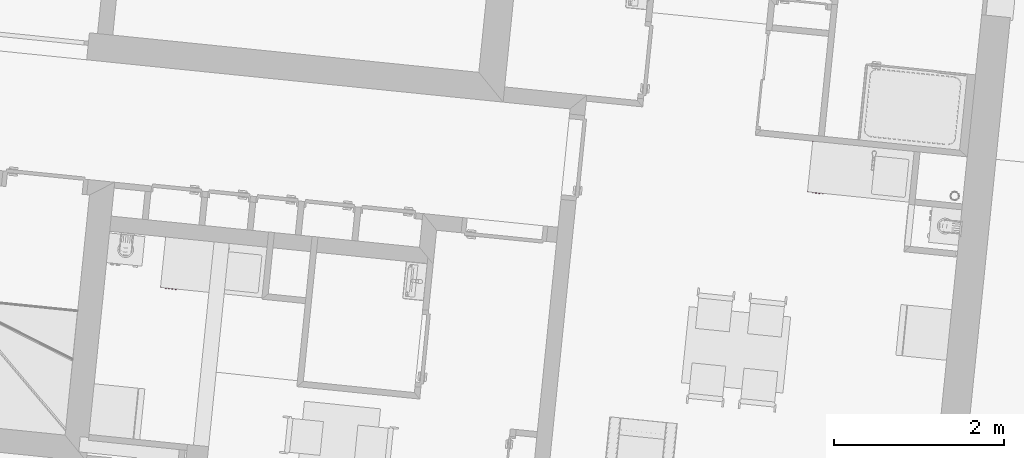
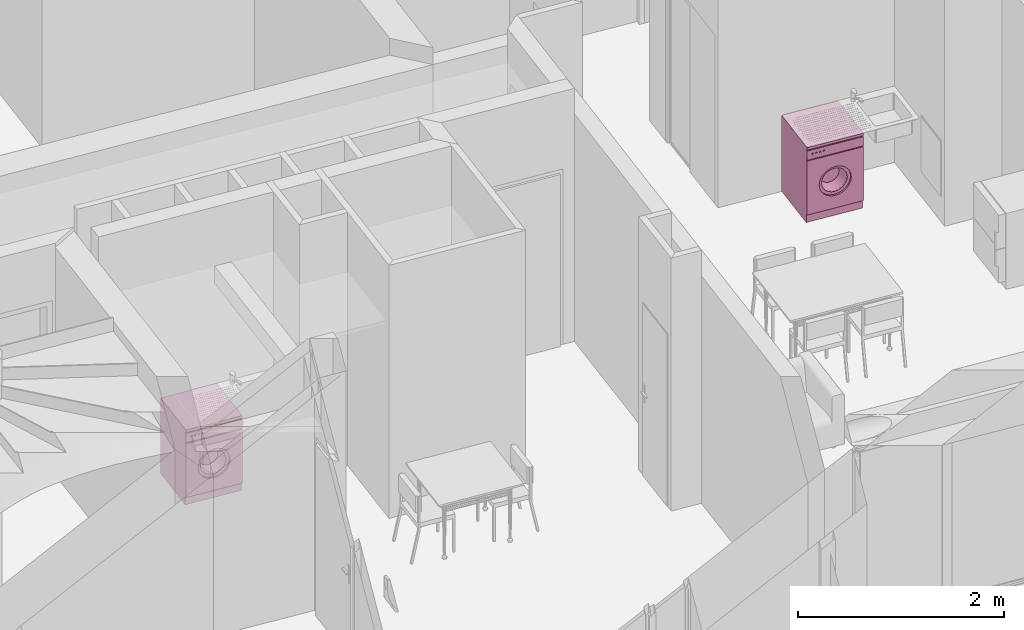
# One storey, part 142 of 171: 2 furnishings.
"""IFC2X3 building model written with IfcOpenShell, lengths in millimetres."""

from ifc_helpers import new_model, entity, si_unit, converted_unit, derived_unit, money_unit, direction, frame, origin_with_axes, place, context, subcontext, project, spatial, open_shell, faceted_brep, surface_model, source, transform, mapped, type_object, element, save


model = new_model("IFC2X3")

# Units and contexts
model_context = context("Model", 3, precision=0.01, world=origin_with_axes(), true_north=direction((0.0, 1.0)))
body_context = subcontext(model_context, "Body", "Model", "MODEL_VIEW")
ifc_project = project(units=[si_unit("LENGTHUNIT", "METRE", prefix="MILLI"), si_unit("AREAUNIT", "SQUARE_METRE"), si_unit("VOLUMEUNIT", "CUBIC_METRE"), converted_unit("PLANEANGLEUNIT", "DEGREE", entity("IfcPlaneAngleMeasure", 0.0174532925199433), si_unit("PLANEANGLEUNIT", "RADIAN"), dimensions=[0, 0, 0, 0, 0, 0, 0]), money_unit("USD"), converted_unit("TIMEUNIT", "Year", entity("IfcTimeMeasure", 31557600.0), si_unit("TIMEUNIT", "SECOND"), dimensions=[0, 0, 1, 0, 0, 0, 0]), si_unit("MASSUNIT", "GRAM", prefix="KILO"), si_unit("THERMODYNAMICTEMPERATUREUNIT", "DEGREE_CELSIUS"), si_unit("LUMINOUSINTENSITYUNIT", "LUMEN"), si_unit("ENERGYUNIT", "JOULE", prefix="MEGA"), derived_unit("THERMALCONDUCTANCEUNIT", [(si_unit("POWERUNIT", "WATT"), 1), (si_unit("LENGTHUNIT", "METRE"), -1), (si_unit("THERMODYNAMICTEMPERATUREUNIT", "KELVIN"), -1)]), derived_unit("SPECIFICHEATCAPACITYUNIT", [(si_unit("ENERGYUNIT", "JOULE"), 1), (si_unit("MASSUNIT", "GRAM", prefix="KILO"), -1), (si_unit("THERMODYNAMICTEMPERATUREUNIT", "KELVIN"), -1)]), derived_unit("MASSDENSITYUNIT", [(si_unit("MASSUNIT", "GRAM", prefix="KILO"), 1), (si_unit("VOLUMEUNIT", "CUBIC_METRE"), -1)])], contexts=[model_context])

# Site, building, storey
site_placement = place(None, origin_with_axes())
site = spatial("IfcSite", under=ifc_project, at=site_placement, Name="Site", CompositionType="ELEMENT")
building_placement = place(site_placement, origin_with_axes())
building = spatial("IfcBuilding", under=site, at=building_placement, Name="Bâtiment", CompositionType="ELEMENT")
storey_placement = place(building_placement, frame((0.0, 0.0, 3000.0), z_axis=(0.0, 0.0, 1.0), x_axis=(1.0, 0.0, 0.0)))
storey = spatial("IfcBuildingStorey", under=building, at=storey_placement, Name="rdc", CompositionType="ELEMENT", Elevation=3000.0)

# Furnishings
furnishing_element_type = type_object("IfcFurnishingElementType", Name="Machine à laver")
shared_shape = source(origin_with_axes(), body_context, "Body", "SurfaceModel", [
    faceted_brep([(0.0, 20.0, 100.0), (600.0, 20.0, 100.0), (600.0, 0.0, 100.0), (0.0, 0.0, 100.0), (0.0, 20.00000000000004, 740.0), (600.0, 20.00000000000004, 740.0), (471.4285714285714, 20.00000000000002, 420.0000000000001), (465.5872845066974, 20.00000000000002, 464.3689791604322), (448.4614977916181, 20.00000000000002, 505.7142857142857), (421.2183053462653, 20.00000000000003, 541.2183053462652), (385.7142857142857, 20.00000000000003, 568.4614977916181), (344.3689791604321, 20.00000000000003, 585.5872845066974), (300.0000000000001, 20.00000000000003, 591.4285714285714), (255.6310208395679, 20.00000000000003, 585.5872845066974), (214.2857142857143, 20.00000000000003, 568.4614977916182), (178.7816946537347, 20.00000000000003, 541.2183053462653), (151.5385022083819, 20.00000000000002, 505.7142857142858), (134.4127154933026, 20.00000000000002, 464.3689791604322), (128.5714285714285, 20.00000000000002, 420.0000000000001), (134.4127154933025, 20.00000000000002, 375.6310208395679), (151.5385022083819, 20.00000000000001, 334.2857142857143), (178.7816946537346, 20.00000000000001, 298.7816946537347), (214.2857142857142, 20.00000000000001, 271.5385022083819), (255.6310208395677, 20.00000000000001, 254.4127154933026), (299.9999999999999, 20.00000000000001, 248.5714285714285), (344.368979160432, 20.00000000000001, 254.4127154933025), (385.7142857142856, 20.00000000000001, 271.5385022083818), (421.2183053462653, 20.00000000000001, 298.7816946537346), (448.4614977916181, 20.00000000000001, 334.2857142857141), (465.5872845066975, 20.00000000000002, 375.6310208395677), (600.0, 0.0, 740.0), (0.0, 0.0, 740.0), (471.4285714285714, 0.0, 420.0000000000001), (465.5872845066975, 0.0, 375.6310208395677), (448.4614977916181, 0.0, 334.2857142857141), (421.2183053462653, 0.0, 298.7816946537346), (385.7142857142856, 0.0, 271.5385022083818), (344.368979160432, 0.0, 254.4127154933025), (299.9999999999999, 0.0, 248.5714285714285), (255.6310208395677, 0.0, 254.4127154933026), (214.2857142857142, 0.0, 271.5385022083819), (178.7816946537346, 0.0, 298.7816946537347), (151.5385022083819, 0.0, 334.2857142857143), (134.4127154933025, 0.0, 375.6310208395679), (128.5714285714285, 0.0, 420.0000000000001), (134.4127154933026, 0.0, 464.3689791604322), (151.5385022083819, 0.0, 505.7142857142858), (178.7816946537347, 0.0, 541.2183053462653), (214.2857142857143, 0.0, 568.4614977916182), (255.6310208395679, 0.0, 585.5872845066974), (300.0000000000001, 0.0, 591.4285714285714), (344.3689791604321, 0.0, 585.5872845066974), (385.7142857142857, 0.0, 568.4614977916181), (421.2183053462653, 0.0, 541.2183053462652), (448.4614977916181, 0.0, 505.7142857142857), (465.5872845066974, 0.0, 464.3689791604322)], [[[0, 1, 2, 3]], [[0, 4, 5, 1], [6, 7, 8, 9, 10, 11, 12, 13, 14, 15, 16, 17, 18, 19, 20, 21, 22, 23, 24, 25, 26, 27, 28, 29]], [[1, 5, 30, 2]], [[3, 2, 30, 31], [32, 33, 34, 35, 36, 37, 38, 39, 40, 41, 42, 43, 44, 45, 46, 47, 48, 49, 50, 51, 52, 53, 54, 55]], [[4, 0, 3, 31]], [[5, 4, 31, 30]], [[7, 6, 32, 55]], [[8, 7, 55, 54]], [[9, 8, 54, 53]], [[10, 9, 53, 52]], [[11, 10, 52, 51]], [[12, 11, 51, 50]], [[13, 12, 50, 49]], [[14, 13, 49, 48]], [[15, 14, 48, 47]], [[16, 15, 47, 46]], [[17, 16, 46, 45]], [[18, 17, 45, 44]], [[19, 18, 44, 43]], [[20, 19, 43, 42]], [[21, 20, 42, 41]], [[22, 21, 41, 40]], [[23, 22, 40, 39]], [[24, 23, 39, 38]], [[25, 24, 38, 37]], [[26, 25, 37, 36]], [[27, 26, 36, 35]], [[28, 27, 35, 34]], [[29, 28, 34, 33]], [[6, 29, 33, 32]]]),
    faceted_brep([(471.4285714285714, 40.00000000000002, 420.0000000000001), (465.5872845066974, 40.00000000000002, 464.3689791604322), (465.5872845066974, 20.00000000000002, 464.3689791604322), (471.4285714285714, 20.00000000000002, 420.0000000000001), (465.5872845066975, 40.00000000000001, 375.6310208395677), (448.4614977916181, 40.00000000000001, 334.2857142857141), (421.2183053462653, 40.00000000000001, 298.7816946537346), (385.7142857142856, 40.00000000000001, 271.5385022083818), (344.368979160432, 40.00000000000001, 254.4127154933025), (299.9999999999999, 40.00000000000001, 248.5714285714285), (255.6310208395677, 40.00000000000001, 254.4127154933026), (214.2857142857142, 40.00000000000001, 271.5385022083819), (178.7816946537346, 40.00000000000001, 298.7816946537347), (151.5385022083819, 40.00000000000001, 334.2857142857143), (134.4127154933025, 40.00000000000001, 375.6310208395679), (128.5714285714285, 40.00000000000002, 420.0000000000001), (134.4127154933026, 40.00000000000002, 464.3689791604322), (151.5385022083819, 40.00000000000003, 505.7142857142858), (178.7816946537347, 40.00000000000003, 541.2183053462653), (214.2857142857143, 40.00000000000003, 568.4614977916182), (255.6310208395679, 40.00000000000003, 585.5872845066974), (300.0000000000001, 40.00000000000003, 591.4285714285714), (344.3689791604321, 40.00000000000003, 585.5872845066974), (385.7142857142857, 40.00000000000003, 568.4614977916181), (421.2183053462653, 40.00000000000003, 541.2183053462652), (448.4614977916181, 40.00000000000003, 505.7142857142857), (437.1428571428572, 40.00000000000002, 420.0000000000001), (432.469827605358, 40.00000000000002, 455.4951833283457), (418.7691982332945, 40.00000000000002, 488.5714285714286), (396.9746442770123, 40.00000000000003, 516.9746442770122), (368.5714285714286, 40.00000000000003, 538.7691982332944), (335.4951833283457, 40.00000000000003, 552.469827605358), (300.0000000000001, 40.00000000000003, 557.1428571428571), (264.5048166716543, 40.00000000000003, 552.469827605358), (231.4285714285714, 40.00000000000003, 538.7691982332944), (203.0253557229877, 40.00000000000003, 516.9746442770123), (181.2308017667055, 40.00000000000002, 488.5714285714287), (167.530172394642, 40.00000000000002, 455.4951833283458), (162.8571428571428, 40.00000000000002, 420.0000000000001), (167.530172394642, 40.00000000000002, 384.5048166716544), (181.2308017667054, 40.00000000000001, 351.4285714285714), (203.0253557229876, 40.00000000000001, 323.0253557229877), (231.4285714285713, 40.00000000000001, 301.2308017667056), (264.5048166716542, 40.00000000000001, 287.530172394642), (299.9999999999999, 40.00000000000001, 282.8571428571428), (335.4951833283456, 40.00000000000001, 287.530172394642), (368.5714285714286, 40.00000000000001, 301.2308017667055), (396.9746442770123, 40.00000000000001, 323.0253557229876), (418.7691982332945, 40.00000000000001, 351.4285714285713), (432.469827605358, 40.00000000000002, 384.5048166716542), (448.4614977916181, 20.00000000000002, 505.7142857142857), (421.2183053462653, 20.00000000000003, 541.2183053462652), (385.7142857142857, 20.00000000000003, 568.4614977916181), (344.3689791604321, 20.00000000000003, 585.5872845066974), (300.0000000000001, 20.00000000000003, 591.4285714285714), (255.6310208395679, 20.00000000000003, 585.5872845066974), (214.2857142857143, 20.00000000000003, 568.4614977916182), (178.7816946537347, 20.00000000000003, 541.2183053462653), (151.5385022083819, 20.00000000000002, 505.7142857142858), (134.4127154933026, 20.00000000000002, 464.3689791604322), (128.5714285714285, 20.00000000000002, 420.0000000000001), (134.4127154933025, 20.00000000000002, 375.6310208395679), (151.5385022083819, 20.00000000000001, 334.2857142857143), (178.7816946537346, 20.00000000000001, 298.7816946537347), (214.2857142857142, 20.00000000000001, 271.5385022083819), (255.6310208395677, 20.00000000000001, 254.4127154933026), (299.9999999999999, 20.00000000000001, 248.5714285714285), (344.368979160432, 20.00000000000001, 254.4127154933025), (385.7142857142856, 20.00000000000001, 271.5385022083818), (421.2183053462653, 20.00000000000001, 298.7816946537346), (448.4614977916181, 20.00000000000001, 334.2857142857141), (465.5872845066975, 20.00000000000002, 375.6310208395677), (437.1428571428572, 20.00000000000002, 420.0000000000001), (432.469827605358, 20.00000000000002, 384.5048166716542), (418.7691982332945, 20.00000000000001, 351.4285714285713), (396.9746442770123, 20.00000000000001, 323.0253557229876), (368.5714285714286, 20.00000000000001, 301.2308017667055), (335.4951833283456, 20.00000000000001, 287.530172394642), (299.9999999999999, 20.00000000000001, 282.8571428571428), (264.5048166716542, 20.00000000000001, 287.530172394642), (231.4285714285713, 20.00000000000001, 301.2308017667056), (203.0253557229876, 20.00000000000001, 323.0253557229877), (181.2308017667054, 20.00000000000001, 351.4285714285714), (167.530172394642, 20.00000000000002, 384.5048166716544), (162.8571428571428, 20.00000000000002, 420.0000000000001), (167.530172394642, 20.00000000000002, 455.4951833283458), (181.2308017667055, 20.00000000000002, 488.5714285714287), (203.0253557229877, 20.00000000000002, 516.9746442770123), (231.4285714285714, 20.00000000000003, 538.7691982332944), (264.5048166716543, 20.00000000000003, 552.469827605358), (300.0000000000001, 20.00000000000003, 557.1428571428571), (335.4951833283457, 20.00000000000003, 552.469827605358), (368.5714285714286, 20.00000000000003, 538.7691982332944), (396.9746442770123, 20.00000000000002, 516.9746442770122), (418.7691982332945, 20.00000000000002, 488.5714285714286), (432.469827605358, 20.00000000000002, 455.4951833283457)], [[[0, 1, 2, 3]], [[0, 4, 5, 6, 7, 8, 9, 10, 11, 12, 13, 14, 15, 16, 17, 18, 19, 20, 21, 22, 23, 24, 25, 1], [26, 27, 28, 29, 30, 31, 32, 33, 34, 35, 36, 37, 38, 39, 40, 41, 42, 43, 44, 45, 46, 47, 48, 49]], [[1, 25, 50, 2]], [[3, 2, 50, 51, 52, 53, 54, 55, 56, 57, 58, 59, 60, 61, 62, 63, 64, 65, 66, 67, 68, 69, 70, 71], [72, 73, 74, 75, 76, 77, 78, 79, 80, 81, 82, 83, 84, 85, 86, 87, 88, 89, 90, 91, 92, 93, 94, 95]], [[4, 0, 3, 71]], [[5, 4, 71, 70]], [[6, 5, 70, 69]], [[7, 6, 69, 68]], [[8, 7, 68, 67]], [[9, 8, 67, 66]], [[10, 9, 66, 65]], [[11, 10, 65, 64]], [[12, 11, 64, 63]], [[13, 12, 63, 62]], [[14, 13, 62, 61]], [[15, 14, 61, 60]], [[16, 15, 60, 59]], [[17, 16, 59, 58]], [[18, 17, 58, 57]], [[19, 18, 57, 56]], [[20, 19, 56, 55]], [[21, 20, 55, 54]], [[22, 21, 54, 53]], [[23, 22, 53, 52]], [[24, 23, 52, 51]], [[25, 24, 51, 50]], [[27, 26, 72, 95]], [[28, 27, 95, 94]], [[29, 28, 94, 93]], [[30, 29, 93, 92]], [[31, 30, 92, 91]], [[32, 31, 91, 90]], [[33, 32, 90, 89]], [[34, 33, 89, 88]], [[35, 34, 88, 87]], [[36, 35, 87, 86]], [[37, 36, 86, 85]], [[38, 37, 85, 84]], [[39, 38, 84, 83]], [[40, 39, 83, 82]], [[41, 40, 82, 81]], [[42, 41, 81, 80]], [[43, 42, 80, 79]], [[44, 43, 79, 78]], [[45, 44, 78, 77]], [[46, 45, 77, 76]], [[47, 46, 76, 75]], [[48, 47, 75, 74]], [[49, 48, 74, 73]], [[26, 49, 73, 72]]]),
    surface_model("IfcShellBasedSurfaceModel", [(264.5048166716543, 39.99999999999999, 552.469827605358), (300.0, 39.99999999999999, 557.1428571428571), (300.0, 140.0, 522.8571428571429), (273.3786125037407, 140.0, 519.3523707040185), (335.4951833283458, 39.99999999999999, 552.469827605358), (326.6213874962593, 140.0, 519.3523707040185), (351.4285714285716, 140.0, 509.0768986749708), (372.7309832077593, 140.0, 492.7309832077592), (389.0768986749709, 140.0, 471.4285714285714), (399.3523707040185, 140.0, 446.6213874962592), (402.8571428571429, 140.0, 420.0), (399.3523707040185, 140.0, 393.3786125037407), (389.0768986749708, 140.0, 368.5714285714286), (372.7309832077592, 140.0, 347.2690167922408), (351.4285714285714, 140.0, 330.9231013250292), (326.6213874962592, 140.0, 320.6476292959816), (299.9999999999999, 140.0, 317.1428571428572), (273.3786125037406, 140.0, 320.6476292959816), (248.5714285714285, 140.0, 330.9231013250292), (227.2690167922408, 140.0, 347.2690167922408), (210.9231013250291, 140.0, 368.5714285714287), (200.6476292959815, 140.0, 393.3786125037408), (197.1428571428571, 140.0, 420.0000000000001), (200.6476292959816, 140.0, 446.6213874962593), (210.9231013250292, 140.0, 471.4285714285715), (227.2690167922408, 140.0, 492.7309832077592), (248.5714285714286, 140.0, 509.0768986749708), (231.4285714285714, 39.99999999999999, 538.7691982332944), (368.5714285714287, 39.99999999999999, 538.7691982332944), (396.9746442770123, 39.99999999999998, 516.9746442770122), (418.7691982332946, 39.99999999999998, 488.5714285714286), (432.469827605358, 39.99999999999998, 455.4951833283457), (437.1428571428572, 39.99999999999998, 419.9999999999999), (432.469827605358, 39.99999999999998, 384.5048166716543), (418.7691982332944, 39.99999999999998, 351.4285714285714), (396.9746442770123, 39.99999999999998, 323.0253557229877), (368.5714285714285, 39.99999999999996, 301.2308017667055), (335.4951833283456, 39.99999999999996, 287.5301723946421), (299.9999999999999, 39.99999999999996, 282.8571428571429), (264.5048166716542, 39.99999999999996, 287.5301723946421), (231.4285714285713, 39.99999999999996, 301.2308017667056), (203.0253557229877, 39.99999999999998, 323.0253557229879), (181.2308017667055, 39.99999999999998, 351.4285714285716), (167.530172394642, 39.99999999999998, 384.5048166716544), (162.8571428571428, 39.99999999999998, 420.0000000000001), (167.5301723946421, 39.99999999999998, 455.4951833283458), (181.2308017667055, 39.99999999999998, 488.5714285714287), (203.0253557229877, 39.99999999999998, 516.9746442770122)], [open_shell([[[0, 1, 2, 3]], [[1, 4, 5, 2]], [[2, 5, 6, 7, 8, 9, 10, 11, 12, 13, 14, 15, 16, 17, 18, 19, 20, 21, 22, 23, 24, 25, 26, 3]], [[27, 0, 3, 26]], [[4, 28, 6, 5]], [[28, 29, 7, 6]], [[29, 30, 8, 7]], [[30, 31, 9, 8]], [[31, 32, 10, 9]], [[32, 33, 11, 10]], [[33, 34, 12, 11]], [[34, 35, 13, 12]], [[35, 36, 14, 13]], [[36, 37, 15, 14]], [[37, 38, 16, 15]], [[38, 39, 17, 16]], [[39, 40, 18, 17]], [[40, 41, 19, 18]], [[41, 42, 20, 19]], [[42, 43, 21, 20]], [[43, 44, 22, 21]], [[44, 45, 23, 22]], [[45, 46, 24, 23]], [[46, 47, 25, 24]], [[47, 27, 26, 25]]])]),
    surface_model("IfcShellBasedSurfaceModel", [(0.0, 20.0, 100.0), (0.0, 20.00000000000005, 870.0), (0.0, 600.0, 870.0), (0.0, 600.0, 99.99999999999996)], [open_shell([[[0, 1, 2, 3]]])]),
    surface_model("IfcShellBasedSurfaceModel", [(600.0, 19.99999999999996, 100.0), (600.0, 20.00000000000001, 870.0), (600.0, 599.9999999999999, 870.0), (600.0, 599.9999999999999, 99.99999999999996)], [open_shell([[[0, 1, 2, 3]]])]),
    surface_model("IfcShellBasedSurfaceModel", [(0.0, 600.0, 100.0), (0.0, 600.0, 870.0), (600.0, 600.0, 870.0), (600.0, 600.0, 100.0)], [open_shell([[[0, 1, 2, 3]]])]),
    faceted_brep([(0.0, 20.0, 0.0), (600.0, 20.0, 0.0), (600.0, 20.0, 100.0), (0.0, 20.0, 100.0), (0.0, 600.0, 0.0), (600.0, 600.0, 0.0), (600.0, 600.0, 100.0), (0.0, 600.0, 100.0)], [[[0, 1, 2, 3]], [[0, 4, 5, 1]], [[1, 5, 6, 2]], [[3, 2, 6, 7]], [[4, 0, 3, 7]], [[5, 4, 7, 6]]]),
    faceted_brep([(0.0, 20.0, 750.0), (600.0, 20.0, 750.0), (600.0, 0.0, 750.0), (0.0, 0.0, 750.0), (0.0, 20.00000000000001, 860.0), (600.0, 20.00000000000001, 860.0), (600.0, 0.0, 860.0), (0.0, 0.0, 860.0)], [[[0, 1, 2, 3]], [[0, 4, 5, 1]], [[1, 5, 6, 2]], [[3, 2, 6, 7]], [[4, 0, 3, 7]], [[5, 4, 7, 6]]]),
    surface_model("IfcShellBasedSurfaceModel", [(0.0, 20.0, 740.0), (0.0, 20.00000000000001, 870.0), (600.0, 20.00000000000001, 870.0), (600.0, 20.0, 740.0)], [open_shell([[[0, 1, 2, 3]]])]),
    faceted_brep([(0.0, 0.0, 870.0), (600.0, 0.0, 870.0), (600.0, 0.0, 900.0), (0.0, 0.0, 900.0), (0.0, 600.0, 870.0), (600.0, 600.0, 870.0), (600.0, 600.0, 900.0), (0.0, 600.0, 900.0)], [[[0, 1, 2, 3]], [[0, 4, 5, 1]], [[1, 5, 6, 2]], [[3, 2, 6, 7]], [[4, 0, 3, 7]], [[5, 4, 7, 6]]]),
    faceted_brep([(68.66025403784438, 0.0, 804.9999999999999), (64.99999999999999, 0.0, 801.3397459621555), (59.99999999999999, 0.0, 799.9999999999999), (54.99999999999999, 0.0, 801.3397459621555), (51.33974596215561, 0.0, 804.9999999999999), (49.99999999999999, 0.0, 809.9999999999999), (51.33974596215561, 0.0, 815.0), (55.0, 0.0, 818.6602540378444), (60.0, 0.0, 820.0), (65.0, 0.0, 818.6602540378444), (68.66025403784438, 0.0, 815.0), (69.99999999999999, 0.0, 809.9999999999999), (68.66025403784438, -10.0, 804.9999999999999), (64.99999999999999, -10.0, 801.3397459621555), (59.99999999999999, -10.0, 799.9999999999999), (54.99999999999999, -10.0, 801.3397459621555), (51.33974596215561, -10.0, 804.9999999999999), (49.99999999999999, -10.0, 809.9999999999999), (51.33974596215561, -10.0, 815.0), (55.0, -10.0, 818.6602540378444), (60.0, -10.0, 820.0), (65.0, -10.0, 818.6602540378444), (68.66025403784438, -10.0, 815.0), (69.99999999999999, -10.0, 809.9999999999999)], [[[0, 1, 2, 3, 4, 5, 6, 7, 8, 9, 10, 11]], [[1, 0, 12, 13]], [[2, 1, 13, 14]], [[3, 2, 14, 15]], [[4, 3, 15, 16]], [[5, 4, 16, 17]], [[6, 5, 17, 18]], [[7, 6, 18, 19]], [[8, 7, 19, 20]], [[9, 8, 20, 21]], [[10, 9, 21, 22]], [[11, 10, 22, 23]], [[0, 11, 23, 12]], [[12, 23, 22, 21, 20, 19, 18, 17, 16, 15, 14, 13]]]),
    faceted_brep([(108.6602540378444, 0.0, 804.9999999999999), (105.0, 0.0, 801.3397459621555), (99.99999999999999, 0.0, 799.9999999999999), (95.0, 0.0, 801.3397459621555), (91.33974596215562, 0.0, 804.9999999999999), (90.00000000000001, 0.0, 809.9999999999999), (91.33974596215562, 0.0, 815.0), (95.0, 0.0, 818.6602540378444), (100.0, 0.0, 820.0), (105.0, 0.0, 818.6602540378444), (108.6602540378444, 0.0, 815.0), (110.0, 0.0, 809.9999999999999), (108.6602540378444, -10.0, 804.9999999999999), (105.0, -10.0, 801.3397459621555), (99.99999999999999, -10.0, 799.9999999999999), (95.0, -10.0, 801.3397459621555), (91.33974596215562, -10.0, 804.9999999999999), (90.00000000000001, -10.0, 809.9999999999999), (91.33974596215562, -10.0, 815.0), (95.0, -10.0, 818.6602540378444), (100.0, -10.0, 820.0), (105.0, -10.0, 818.6602540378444), (108.6602540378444, -10.0, 815.0), (110.0, -10.0, 809.9999999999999)], [[[0, 1, 2, 3, 4, 5, 6, 7, 8, 9, 10, 11]], [[1, 0, 12, 13]], [[2, 1, 13, 14]], [[3, 2, 14, 15]], [[4, 3, 15, 16]], [[5, 4, 16, 17]], [[6, 5, 17, 18]], [[7, 6, 18, 19]], [[8, 7, 19, 20]], [[9, 8, 20, 21]], [[10, 9, 21, 22]], [[11, 10, 22, 23]], [[0, 11, 23, 12]], [[12, 23, 22, 21, 20, 19, 18, 17, 16, 15, 14, 13]]]),
    faceted_brep([(148.6602540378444, 0.0, 804.9999999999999), (145.0, 0.0, 801.3397459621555), (140.0, 0.0, 799.9999999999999), (135.0, 0.0, 801.3397459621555), (131.3397459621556, 0.0, 804.9999999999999), (130.0, 0.0, 809.9999999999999), (131.3397459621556, 0.0, 815.0), (135.0, 0.0, 818.6602540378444), (140.0, 0.0, 820.0), (145.0, 0.0, 818.6602540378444), (148.6602540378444, 0.0, 815.0), (150.0, 0.0, 809.9999999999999), (148.6602540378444, -10.0, 804.9999999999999), (145.0, -10.0, 801.3397459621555), (140.0, -10.0, 799.9999999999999), (135.0, -10.0, 801.3397459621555), (131.3397459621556, -10.0, 804.9999999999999), (130.0, -10.0, 809.9999999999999), (131.3397459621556, -10.0, 815.0), (135.0, -10.0, 818.6602540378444), (140.0, -10.0, 820.0), (145.0, -10.0, 818.6602540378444), (148.6602540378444, -10.0, 815.0), (150.0, -10.0, 809.9999999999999)], [[[0, 1, 2, 3, 4, 5, 6, 7, 8, 9, 10, 11]], [[1, 0, 12, 13]], [[2, 1, 13, 14]], [[3, 2, 14, 15]], [[4, 3, 15, 16]], [[5, 4, 16, 17]], [[6, 5, 17, 18]], [[7, 6, 18, 19]], [[8, 7, 19, 20]], [[9, 8, 20, 21]], [[10, 9, 21, 22]], [[11, 10, 22, 23]], [[0, 11, 23, 12]], [[12, 23, 22, 21, 20, 19, 18, 17, 16, 15, 14, 13]]]),
    faceted_brep([(188.6602540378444, 0.0, 804.9999999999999), (185.0, 0.0, 801.3397459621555), (180.0, 0.0, 799.9999999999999), (175.0, 0.0, 801.3397459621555), (171.3397459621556, 0.0, 804.9999999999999), (170.0, 0.0, 809.9999999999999), (171.3397459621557, 0.0, 815.0), (175.0, 0.0, 818.6602540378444), (180.0, 0.0, 820.0), (185.0, 0.0, 818.6602540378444), (188.6602540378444, 0.0, 815.0), (190.0, 0.0, 809.9999999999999), (188.6602540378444, -10.0, 804.9999999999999), (185.0, -10.0, 801.3397459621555), (180.0, -10.0, 799.9999999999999), (175.0, -10.0, 801.3397459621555), (171.3397459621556, -10.0, 804.9999999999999), (170.0, -10.0, 809.9999999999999), (171.3397459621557, -10.0, 815.0), (175.0, -10.0, 818.6602540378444), (180.0, -10.0, 820.0), (185.0, -10.0, 818.6602540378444), (188.6602540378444, -10.0, 815.0), (190.0, -10.0, 809.9999999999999)], [[[0, 1, 2, 3, 4, 5, 6, 7, 8, 9, 10, 11]], [[1, 0, 12, 13]], [[2, 1, 13, 14]], [[3, 2, 14, 15]], [[4, 3, 15, 16]], [[5, 4, 16, 17]], [[6, 5, 17, 18]], [[7, 6, 18, 19]], [[8, 7, 19, 20]], [[9, 8, 20, 21]], [[10, 9, 21, 22]], [[11, 10, 22, 23]], [[0, 11, 23, 12]], [[12, 23, 22, 21, 20, 19, 18, 17, 16, 15, 14, 13]]]),
])
for number, where, z_axis, x_axis, name in (
    (1, (2237180.304828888, -614343.5788621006, 0.0), (0.0, 0.0, 1.0), (0.9949567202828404, -0.1003051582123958, 0.0), "Obj.-019"),
    (2, (2229564.350406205, -615469.2906833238, 0.0), (0.0, 0.0, 1.0), (0.9949567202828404, -0.1003051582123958, 0.0), "Obj.-019"),
):
    element("IfcFurnishingElement", number, at=place(storey_placement, frame(where, z_axis=z_axis, x_axis=x_axis)), inside=storey, type_object=furnishing_element_type, Name=name, context=body_context, shape_type="MappedRepresentation", body=[
        mapped(shared_shape, transform((0.0, 0.0, 0.0))),
    ])

save(model, "model.ifc")
